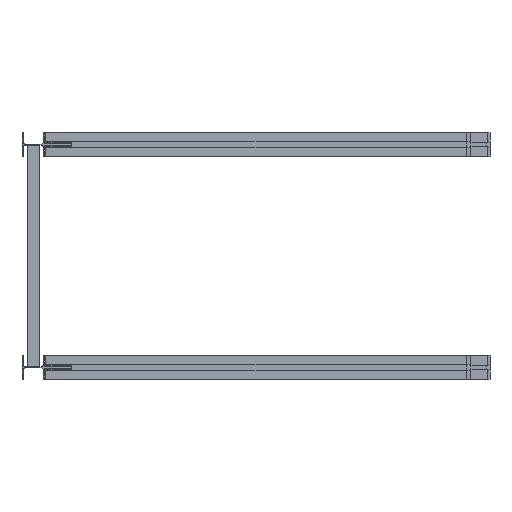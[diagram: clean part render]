
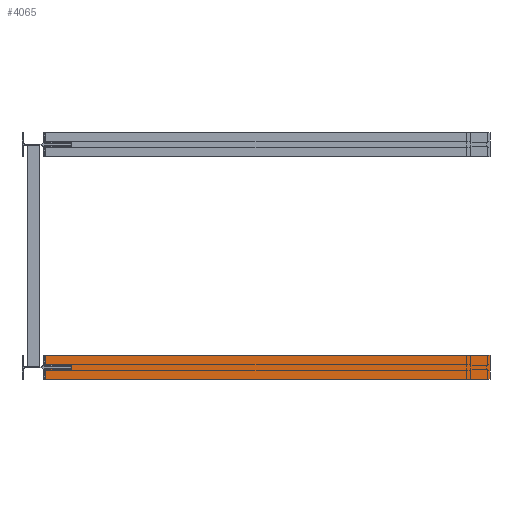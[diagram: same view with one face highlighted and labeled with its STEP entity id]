
A CAD part, left-side view. The second image highlights one B-rep face of the part: STEP entity #4065.
In plain terms, the highlighted planar face has unit normal (-1, 0, 0).
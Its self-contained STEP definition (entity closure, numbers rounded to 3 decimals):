
#266=DIRECTION('',(0.,1.,0.));
#267=VECTOR('',#266,2991.5);
#268=CARTESIAN_POINT('',(-76.,-76.,80.));
#269=LINE('',#268,#267);
#412=DIRECTION('',(0.,-1.,0.));
#413=VECTOR('',#412,2991.5);
#414=CARTESIAN_POINT('',(-76.,2915.5,-80.));
#415=LINE('',#414,#413);
#742=DIRECTION('',(0.,0.,-1.));
#743=VECTOR('',#742,160.);
#744=CARTESIAN_POINT('',(-76.,-76.,80.));
#745=LINE('',#744,#743);
#754=DIRECTION('',(0.,0.,-1.));
#755=VECTOR('',#754,66.5);
#756=CARTESIAN_POINT('',(-76.,2915.5,-13.5));
#757=LINE('',#756,#755);
#758=DIRECTION('',(0.,-1.,0.));
#759=VECTOR('',#758,174.);
#760=CARTESIAN_POINT('',(-76.,2915.5,-13.5));
#761=LINE('',#760,#759);
#762=DIRECTION('',(0.,0.,1.));
#763=VECTOR('',#762,27.);
#764=CARTESIAN_POINT('',(-76.,2741.5,-13.5));
#765=LINE('',#764,#763);
#766=DIRECTION('',(0.,1.,0.));
#767=VECTOR('',#766,174.);
#768=CARTESIAN_POINT('',(-76.,2741.5,13.5));
#769=LINE('',#768,#767);
#770=DIRECTION('',(0.,0.,-1.));
#771=VECTOR('',#770,66.5);
#772=CARTESIAN_POINT('',(-76.,2915.5,80.));
#773=LINE('',#772,#771);
#2369=CARTESIAN_POINT('',(-76.,2915.5,80.));
#2370=VERTEX_POINT('',#2369);
#2371=CARTESIAN_POINT('',(-76.,2915.5,-80.));
#2372=VERTEX_POINT('',#2371);
#2557=CARTESIAN_POINT('',(-76.,-76.,80.));
#2558=CARTESIAN_POINT('',(-76.,-76.,-80.));
#2559=VERTEX_POINT('',#2557);
#2560=VERTEX_POINT('',#2558);
#2645=CARTESIAN_POINT('',(-76.,2915.5,-13.5));
#2646=VERTEX_POINT('',#2645);
#2647=CARTESIAN_POINT('',(-76.,2741.5,-13.5));
#2648=VERTEX_POINT('',#2647);
#2651=CARTESIAN_POINT('',(-76.,2741.5,13.5));
#2652=VERTEX_POINT('',#2651);
#2663=CARTESIAN_POINT('',(-76.,2915.5,13.5));
#2664=VERTEX_POINT('',#2663);
#4048=CARTESIAN_POINT('',(-76.,76.,-80.));
#4049=DIRECTION('',(-1.,0.,0.));
#4050=DIRECTION('',(0.,0.,1.));
#4051=AXIS2_PLACEMENT_3D('',#4048,#4049,#4050);
#4052=PLANE('',#4051);
#4053=ORIENTED_EDGE('',*,*,#3111,.F.);
#4054=ORIENTED_EDGE('',*,*,#4040,.T.);
#4055=ORIENTED_EDGE('',*,*,#3371,.F.);
#4056=ORIENTED_EDGE('',*,*,#3073,.F.);
#4058=ORIENTED_EDGE('',*,*,#4057,.T.);
#4060=ORIENTED_EDGE('',*,*,#4059,.T.);
#4061=ORIENTED_EDGE('',*,*,#2822,.T.);
#4062=ORIENTED_EDGE('',*,*,#3062,.F.);
#4063=EDGE_LOOP('',(#4053,#4054,#4055,#4056,#4058,#4060,#4061,#4062));
#4064=FACE_OUTER_BOUND('',#4063,.F.);
#4065=ADVANCED_FACE('',(#4064),#4052,.T.);
#2822=EDGE_CURVE('',#2652,#2664,#769,.T.);
#3062=EDGE_CURVE('',#2370,#2664,#773,.T.);
#3073=EDGE_CURVE('',#2646,#2372,#757,.T.);
#3111=EDGE_CURVE('',#2559,#2370,#269,.T.);
#3371=EDGE_CURVE('',#2372,#2560,#415,.T.);
#4040=EDGE_CURVE('',#2559,#2560,#745,.T.);
#4057=EDGE_CURVE('',#2646,#2648,#761,.T.);
#4059=EDGE_CURVE('',#2648,#2652,#765,.T.);
